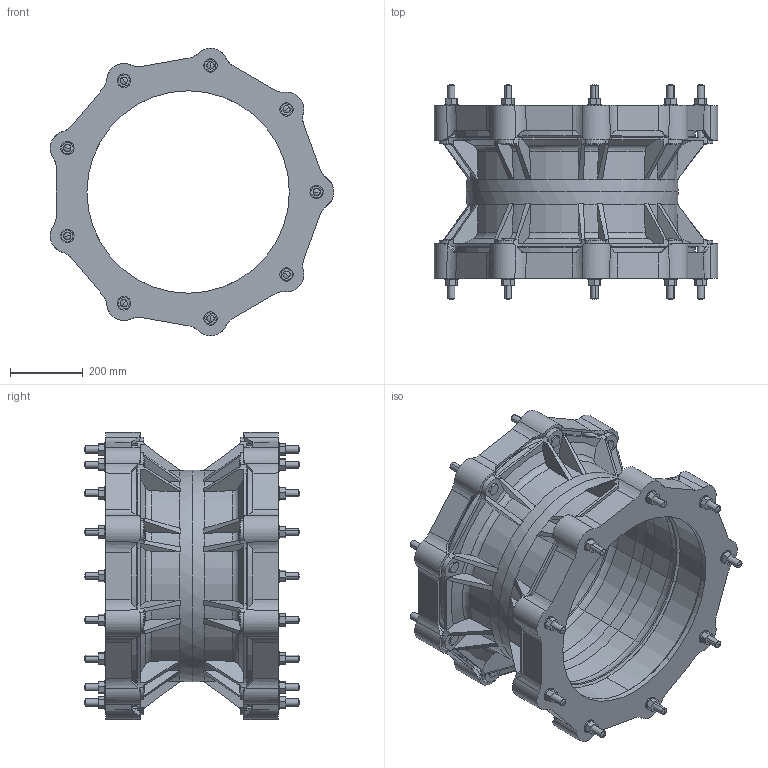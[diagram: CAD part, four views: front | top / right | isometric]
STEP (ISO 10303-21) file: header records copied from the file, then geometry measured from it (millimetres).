
FILE_DESCRIPTION((''),'2;1');
FILE_NAME('BIM_13198_17_ASM','2020-07-02T',('MReader'),(''),'CREO PARAMETRIC BY PTC INC, 2016130','CREO PARAMETRIC BY PTC INC, 2016130','');
FILE_SCHEMA(('CONFIG_CONTROL_DESIGN'));
Length unit declared in the file: millimetre
Products named in the file (4): BIM_13419_1; 498-552_GASKET_BIM; BIM_13417_2; BIM_13198_17_ASM
Assembly tree (5 placements, depth 2):
  BIM_13198_17_ASM
    BIM_13419_1
    498-552_GASKET_BIM  x2
    BIM_13417_2  x2
Bounding box: 778.48 x 589 x 789.05 mm (x, y, z)
Volume: 31107573.3 mm3; surface area: 4769093.5 mm2
Topology: 5 solids, 5 shells, 1516 faces, 4108 edges, 2694 vertices
Faces by surface type: plane 750, cylinder 426, cone 180, bspline 72, torus 52, sphere 36
Entity records: 39807 total; most frequent: CARTESIAN_POINT 11574, ORIENTED_EDGE 6212, DIRECTION 5434, EDGE_CURVE 3106, VERTEX_POINT 2054, AXIS2_PLACEMENT_3D 2025, VECTOR 1384, LINE 1384
